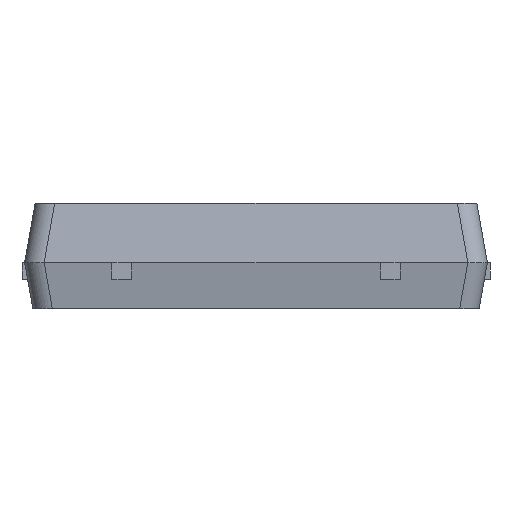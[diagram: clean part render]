
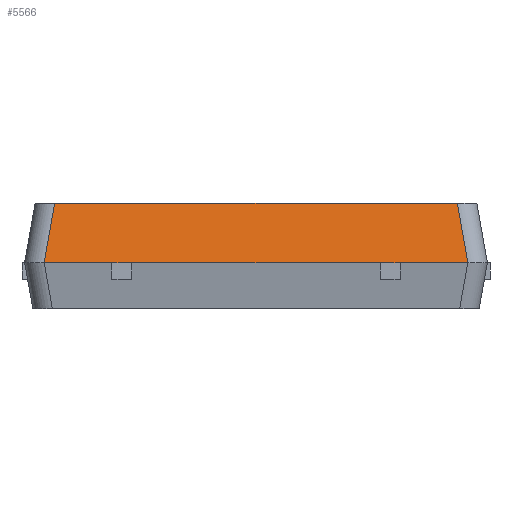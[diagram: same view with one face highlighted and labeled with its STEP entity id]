
A CAD part, front view. The second image highlights one B-rep face of the part: STEP entity #5566.
In plain terms, the highlighted planar face has unit normal (0, -0.985, 0.174).
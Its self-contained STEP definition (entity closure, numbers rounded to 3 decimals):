
#25 = CARTESIAN_POINT ( 'NONE',  ( -7.842, 5.97, 27.453 ) ) ;
#27 = VECTOR ( 'NONE', #3915, 1000. ) ;
#301 = VECTOR ( 'NONE', #1146, 1000. ) ;
#462 = DIRECTION ( 'NONE',  ( 1., 0., 0. ) ) ;
#470 = VECTOR ( 'NONE', #3404, 1000. ) ;
#509 = VECTOR ( 'NONE', #4028, 1000. ) ;
#522 = EDGE_CURVE ( 'NONE', #3556, #3493, #3532, .T. ) ;
#563 = CARTESIAN_POINT ( 'NONE',  ( 16.845, 5.97, 27.453 ) ) ;
#688 = EDGE_CURVE ( 'NONE', #5018, #4978, #3874, .T. ) ;
#749 = CARTESIAN_POINT ( 'NONE',  ( 18.009, 6.129, 28.353 ) ) ;
#960 = CARTESIAN_POINT ( 'NONE',  ( 11.917, 6.129, 28.353 ) ) ;
#973 = VERTEX_POINT ( 'NONE', #3094 ) ;
#982 = ORIENTED_EDGE ( 'NONE', *, *, #688, .T. ) ;
#1009 = LINE ( 'NONE', #4003, #509 ) ;
#1125 = EDGE_CURVE ( 'NONE', #6053, #4403, #4722, .T. ) ;
#1131 = LINE ( 'NONE', #2319, #4136 ) ;
#1146 = DIRECTION ( 'NONE',  ( 1., 0., 0. ) ) ;
#1411 = ORIENTED_EDGE ( 'NONE', *, *, #6273, .T. ) ;
#1437 = CARTESIAN_POINT ( 'NONE',  ( -7.842, 5.97, 27.453 ) ) ;
#1528 = CARTESIAN_POINT ( 'NONE',  ( -7.842, 5.97, 27.453 ) ) ;
#1670 = DIRECTION ( 'NONE',  ( 0., -0.174, -0.985 ) ) ;
#1955 = DIRECTION ( 'NONE',  ( -0.171, -0.171, -0.97 ) ) ;
#2008 = CARTESIAN_POINT ( 'NONE',  ( 13.081, 5.97, 27.453 ) ) ;
#2197 = CARTESIAN_POINT ( 'NONE',  ( -7.842, 6.129, 28.353 ) ) ;
#2319 = CARTESIAN_POINT ( 'NONE',  ( -7.842, 5.97, 27.453 ) ) ;
#2320 = EDGE_CURVE ( 'NONE', #4403, #3493, #1009, .T. ) ;
#2428 = FACE_OUTER_BOUND ( 'NONE', #5813, .T. ) ;
#2770 = DIRECTION ( 'NONE',  ( 1., 0., 0. ) ) ;
#2817 = ORIENTED_EDGE ( 'NONE', *, *, #3971, .T. ) ;
#2867 = CARTESIAN_POINT ( 'NONE',  ( -7.842, 5.97, 27.453 ) ) ;
#3007 = AXIS2_PLACEMENT_3D ( 'NONE', #25, #4934, #1670 ) ;
#3081 = LINE ( 'NONE', #1528, #4040 ) ;
#3094 = CARTESIAN_POINT ( 'NONE',  ( 11.758, 5.97, 27.453 ) ) ;
#3177 = LINE ( 'NONE', #4670, #3536 ) ;
#3178 = EDGE_CURVE ( 'NONE', #4978, #6211, #3081, .T. ) ;
#3219 = ORIENTED_EDGE ( 'NONE', *, *, #1125, .T. ) ;
#3404 = DIRECTION ( 'NONE',  ( 1., 0., 0. ) ) ;
#3493 = VERTEX_POINT ( 'NONE', #749 ) ;
#3494 = LINE ( 'NONE', #1437, #4526 ) ;
#3532 = LINE ( 'NONE', #2197, #301 ) ;
#3536 = VECTOR ( 'NONE', #1955, 1000. ) ;
#3556 = VERTEX_POINT ( 'NONE', #960 ) ;
#3687 = CARTESIAN_POINT ( 'NONE',  ( 17.145, 5.97, 27.453 ) ) ;
#3874 = LINE ( 'NONE', #2867, #470 ) ;
#3886 = CARTESIAN_POINT ( 'NONE',  ( -7.842, 5.97, 27.453 ) ) ;
#3915 = DIRECTION ( 'NONE',  ( 1., 0., 0. ) ) ;
#3961 = ORIENTED_EDGE ( 'NONE', *, *, #2320, .T. ) ;
#3971 = EDGE_CURVE ( 'NONE', #6211, #6053, #3494, .T. ) ;
#4003 = CARTESIAN_POINT ( 'NONE',  ( 17.406, 6.732, 31.771 ) ) ;
#4028 = DIRECTION ( 'NONE',  ( -0.171, 0.171, 0.97 ) ) ;
#4040 = VECTOR ( 'NONE', #462, 1000. ) ;
#4136 = VECTOR ( 'NONE', #2770, 1000. ) ;
#4343 = ORIENTED_EDGE ( 'NONE', *, *, #3178, .T. ) ;
#4403 = VERTEX_POINT ( 'NONE', #6807 ) ;
#4464 = ORIENTED_EDGE ( 'NONE', *, *, #5931, .T. ) ;
#4487 = ORIENTED_EDGE ( 'NONE', *, *, #522, .F. ) ;
#4526 = VECTOR ( 'NONE', #5265, 1000. ) ;
#4670 = CARTESIAN_POINT ( 'NONE',  ( 11.185, 5.397, 24.199 ) ) ;
#4722 = LINE ( 'NONE', #3886, #27 ) ;
#4934 = DIRECTION ( 'NONE',  ( 0., -0.985, 0.174 ) ) ;
#4978 = VERTEX_POINT ( 'NONE', #2008 ) ;
#5005 = PLANE ( 'NONE',  #3007 ) ;
#5018 = VERTEX_POINT ( 'NONE', #6961 ) ;
#5265 = DIRECTION ( 'NONE',  ( 1., 0., 0. ) ) ;
#5566 = ADVANCED_FACE ( 'NONE', ( #2428 ), #5005, .T. ) ;
#5813 = EDGE_LOOP ( 'NONE', ( #1411, #982, #4343, #2817, #3219, #3961, #4487, #4464 ) ) ;
#5931 = EDGE_CURVE ( 'NONE', #3556, #973, #3177, .T. ) ;
#6053 = VERTEX_POINT ( 'NONE', #3687 ) ;
#6211 = VERTEX_POINT ( 'NONE', #563 ) ;
#6273 = EDGE_CURVE ( 'NONE', #973, #5018, #1131, .T. ) ;
#6807 = CARTESIAN_POINT ( 'NONE',  ( 18.167, 5.97, 27.453 ) ) ;
#6961 = CARTESIAN_POINT ( 'NONE',  ( 12.781, 5.97, 27.453 ) ) ;
